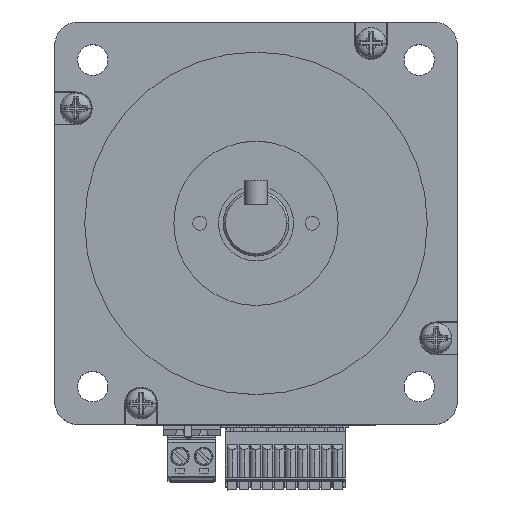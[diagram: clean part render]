
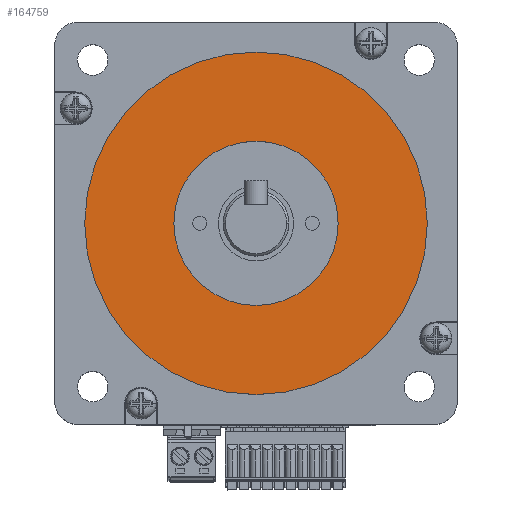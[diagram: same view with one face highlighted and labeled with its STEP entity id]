
A CAD part, top view. The second image highlights one B-rep face of the part: STEP entity #164759.
In plain terms, the highlighted planar face has unit normal (0, 0, 1).
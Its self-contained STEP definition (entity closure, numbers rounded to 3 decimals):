
#1273 = DIRECTION ( 'NONE',  ( 0., 0., 1. ) ) ;
#2594 = DIRECTION ( 'NONE',  ( 1., 0., 0. ) ) ;
#14102 = DIRECTION ( 'NONE',  ( 0., 0., 1. ) ) ;
#23696 = PLANE ( 'NONE',  #121620 ) ;
#26999 = EDGE_CURVE ( 'NONE', #133645, #214044, #228349, .T. ) ;
#29413 = CARTESIAN_POINT ( 'NONE',  ( -17.5, 0., 1.6 ) ) ;
#32046 = CARTESIAN_POINT ( 'NONE',  ( 36.5, 0., 1.6 ) ) ;
#49243 = CARTESIAN_POINT ( 'NONE',  ( 0., 0., 1.6 ) ) ;
#54822 = VERTEX_POINT ( 'NONE', #111228 ) ;
#55174 = ORIENTED_EDGE ( 'NONE', *, *, #26999, .F. ) ;
#71272 = AXIS2_PLACEMENT_3D ( 'NONE', #161943, #201628, #98280 ) ;
#73267 = DIRECTION ( 'NONE',  ( 0., 0., 1. ) ) ;
#73448 = CARTESIAN_POINT ( 'NONE',  ( 0., 0., 1.6 ) ) ;
#97086 = CIRCLE ( 'NONE', #232539, 17.5 ) ;
#98280 = DIRECTION ( 'NONE',  ( 1., 0., 0. ) ) ;
#105649 = FACE_BOUND ( 'NONE', #122484, .T. ) ;
#109808 = CARTESIAN_POINT ( 'NONE',  ( 0., 0., 1.6 ) ) ;
#111228 = CARTESIAN_POINT ( 'NONE',  ( -36.5, 0., 1.6 ) ) ;
#111273 = DIRECTION ( 'NONE',  ( 1., 0., 0. ) ) ;
#120936 = CIRCLE ( 'NONE', #71272, 36.5 ) ;
#121285 = AXIS2_PLACEMENT_3D ( 'NONE', #49243, #73267, #159459 ) ;
#121531 = ORIENTED_EDGE ( 'NONE', *, *, #136566, .F. ) ;
#121620 = AXIS2_PLACEMENT_3D ( 'NONE', #109808, #279295, #2594 ) ;
#121655 = EDGE_LOOP ( 'NONE', ( #259961, #200356 ) ) ;
#122484 = EDGE_LOOP ( 'NONE', ( #55174, #121531 ) ) ;
#133645 = VERTEX_POINT ( 'NONE', #259965 ) ;
#134152 = VERTEX_POINT ( 'NONE', #32046 ) ;
#136566 = EDGE_CURVE ( 'NONE', #214044, #133645, #97086, .T. ) ;
#159459 = DIRECTION ( 'NONE',  ( 1., 0., 0. ) ) ;
#161943 = CARTESIAN_POINT ( 'NONE',  ( 0., 0., 1.6 ) ) ;
#163870 = DIRECTION ( 'NONE',  ( 1., 0., 0. ) ) ;
#164759 = ADVANCED_FACE ( 'NONE', ( #105649, #170720 ), #23696, .T. ) ;
#170720 = FACE_OUTER_BOUND ( 'NONE', #121655, .T. ) ;
#188479 = EDGE_CURVE ( 'NONE', #54822, #134152, #120936, .T. ) ;
#197500 = CARTESIAN_POINT ( 'NONE',  ( 0., 0., 1.6 ) ) ;
#200356 = ORIENTED_EDGE ( 'NONE', *, *, #234659, .T. ) ;
#201628 = DIRECTION ( 'NONE',  ( 0., 0., 1. ) ) ;
#214044 = VERTEX_POINT ( 'NONE', #29413 ) ;
#228349 = CIRCLE ( 'NONE', #264412, 17.5 ) ;
#232539 = AXIS2_PLACEMENT_3D ( 'NONE', #73448, #14102, #163870 ) ;
#234659 = EDGE_CURVE ( 'NONE', #134152, #54822, #261058, .T. ) ;
#259961 = ORIENTED_EDGE ( 'NONE', *, *, #188479, .T. ) ;
#259965 = CARTESIAN_POINT ( 'NONE',  ( 17.5, 0., 1.6 ) ) ;
#261058 = CIRCLE ( 'NONE', #121285, 36.5 ) ;
#264412 = AXIS2_PLACEMENT_3D ( 'NONE', #197500, #1273, #111273 ) ;
#279295 = DIRECTION ( 'NONE',  ( 0., 0., 1. ) ) ;
